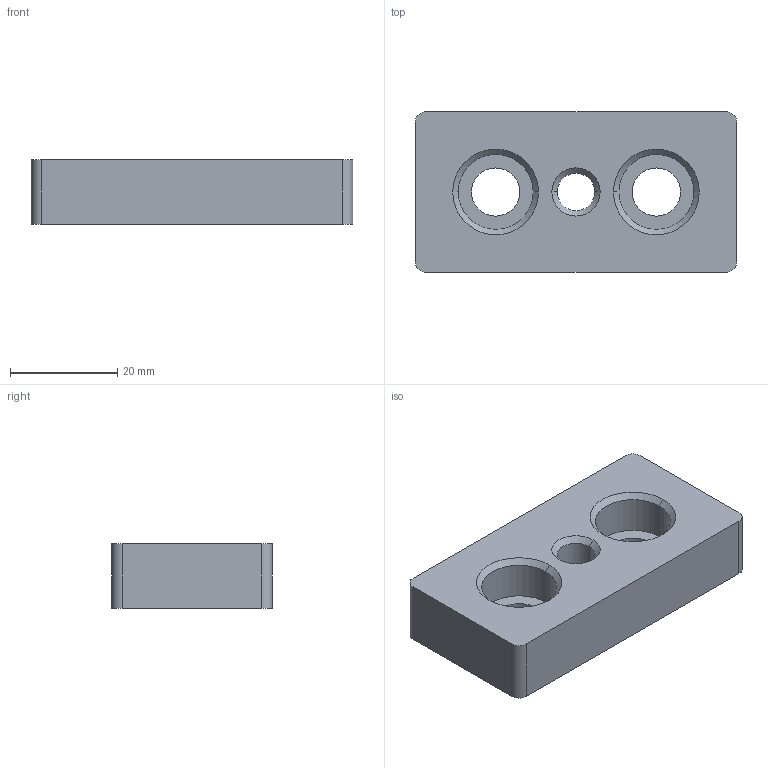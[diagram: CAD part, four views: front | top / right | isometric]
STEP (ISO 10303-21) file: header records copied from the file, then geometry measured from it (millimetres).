
FILE_DESCRIPTION (( 'STEP AP203' ), '1' );
FILE_NAME ('7001.STEP', '2016-04-03T11:43:57', ( '' ), ( '' ), 'SwSTEP 2.0', 'SolidWorks 2014', '' );
FILE_SCHEMA (( 'CONFIG_CONTROL_DESIGN' ));
Length unit declared in the file: millimetre
Products named in the file (1): 7001
Bounding box: 60 x 30 x 12 mm (x, y, z)
Volume: 18024.5 mm3; surface area: 6471.7 mm2
Topology: 1 solids, 1 shells, 34 faces, 78 edges, 48 vertices
Faces by surface type: cylinder 14, cone 12, plane 8
Entity records: 1055 total; most frequent: DIRECTION 188, CARTESIAN_POINT 161, ORIENTED_EDGE 156, EDGE_CURVE 78, AXIS2_PLACEMENT_3D 75, VERTEX_POINT 48, EDGE_LOOP 42, CIRCLE 40
